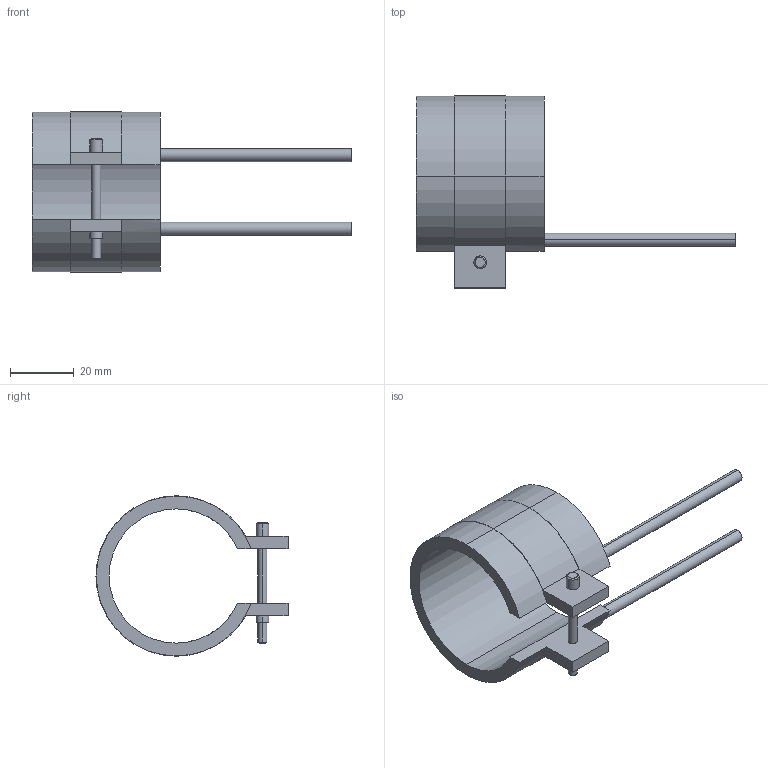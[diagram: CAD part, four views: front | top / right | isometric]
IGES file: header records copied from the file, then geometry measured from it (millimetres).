
Start section: START RECORD GO HERE.
Global section: file name: 14042040.igs; native system: DASSAULT SYSTEMES CATIA V5 R20 - www.3ds.com; preprocessor: CATIA Version 5 Release 20 ; author: Utente; organization: NB04-ASUS; date: 20210331.140229; units: millimetre
Bounding box: 100 x 60.1 x 50.2 mm (x, y, z)
Surface area: 14316.2 mm2 (no closed solid volume)
Topology: 0 solids, 0 shells, 45 faces, 232 edges, 232 vertices
Faces by surface type: revolution 28, plane 17
